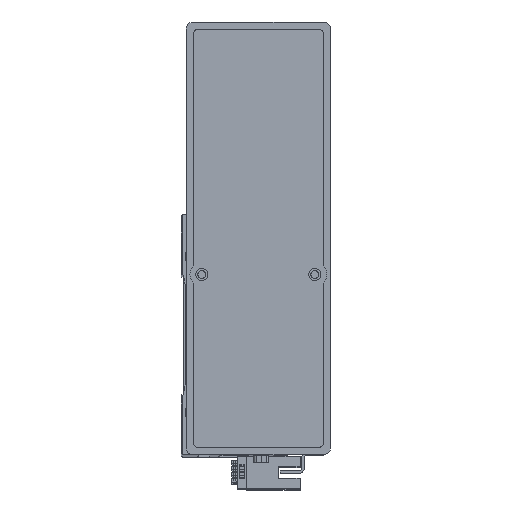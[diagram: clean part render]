
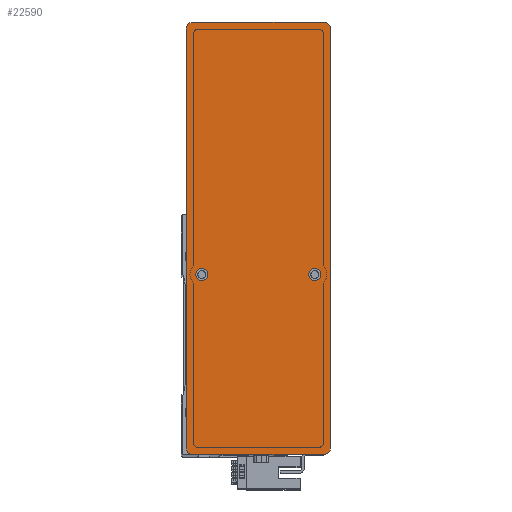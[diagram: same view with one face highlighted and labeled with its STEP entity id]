
A CAD part, top view. The second image highlights one B-rep face of the part: STEP entity #22590.
In plain terms, the highlighted planar face has unit normal (0, 0, 1) as drawn and (0, 0, -1) by its records, which use the part's own axes.
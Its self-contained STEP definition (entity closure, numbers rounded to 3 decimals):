
#37 = CIRCLE ( 'NONE', #8737, 3. ) ;
#402 = CARTESIAN_POINT ( 'NONE',  ( -87., -30., 0. ) ) ;
#432 = VERTEX_POINT ( 'NONE', #40245 ) ;
#1298 = EDGE_CURVE ( 'NONE', #30058, #31738, #4262, .T. ) ;
#1557 = DIRECTION ( 'NONE',  ( -1., 0., 0. ) ) ;
#1824 = CIRCLE ( 'NONE', #4023, 2.5 ) ;
#1884 = VERTEX_POINT ( 'NONE', #22489 ) ;
#1987 = DIRECTION ( 'NONE',  ( 1., 0., 0. ) ) ;
#2189 = AXIS2_PLACEMENT_3D ( 'NONE', #22099, #2416, #25392 ) ;
#2416 = DIRECTION ( 'NONE',  ( 0., 0., -1. ) ) ;
#2606 = ORIENTED_EDGE ( 'NONE', *, *, #12022, .F. ) ;
#2977 = DIRECTION ( 'NONE',  ( -1., 0., 0. ) ) ;
#3457 = LINE ( 'NONE', #28763, #29672 ) ;
#3541 = CARTESIAN_POINT ( 'NONE',  ( -90., 27., 0. ) ) ;
#4023 = AXIS2_PLACEMENT_3D ( 'NONE', #38153, #18522, #41449 ) ;
#4182 = ORIENTED_EDGE ( 'NONE', *, *, #15771, .F. ) ;
#4262 = LINE ( 'NONE', #13171, #11995 ) ;
#5998 = ORIENTED_EDGE ( 'NONE', *, *, #13066, .F. ) ;
#6090 = AXIS2_PLACEMENT_3D ( 'NONE', #32796, #13109, #36113 ) ;
#6472 = ORIENTED_EDGE ( 'NONE', *, *, #7379, .T. ) ;
#7379 = EDGE_CURVE ( 'NONE', #30058, #1884, #22055, .T. ) ;
#7726 = DIRECTION ( 'NONE',  ( 0., 0., -1. ) ) ;
#8032 = ORIENTED_EDGE ( 'NONE', *, *, #39918, .F. ) ;
#8286 = LINE ( 'NONE', #25946, #17021 ) ;
#8737 = AXIS2_PLACEMENT_3D ( 'NONE', #38275, #18655, #41590 ) ;
#9058 = CARTESIAN_POINT ( 'NONE',  ( 0., 0., 0. ) ) ;
#9167 = ORIENTED_EDGE ( 'NONE', *, *, #39330, .F. ) ;
#9526 = CARTESIAN_POINT ( 'NONE',  ( 90., -27., 0. ) ) ;
#9609 = AXIS2_PLACEMENT_3D ( 'NONE', #9058, #38766, #19155 ) ;
#9916 = AXIS2_PLACEMENT_3D ( 'NONE', #36007, #16304, #39253 ) ;
#10735 = FACE_BOUND ( 'NONE', #42079, .T. ) ;
#10820 = EDGE_CURVE ( 'NONE', #29496, #20477, #37, .T. ) ;
#10893 = ORIENTED_EDGE ( 'NONE', *, *, #37177, .T. ) ;
#11126 = CIRCLE ( 'NONE', #9916, 2.5 ) ;
#11151 = CARTESIAN_POINT ( 'NONE',  ( -87., 30., 0. ) ) ;
#11995 = VECTOR ( 'NONE', #36164, 1000. ) ;
#12000 = AXIS2_PLACEMENT_3D ( 'NONE', #27411, #7726, #30696 ) ;
#12022 = EDGE_CURVE ( 'NONE', #17429, #13244, #20907, .T. ) ;
#13066 = EDGE_CURVE ( 'NONE', #21175, #16048, #11126, .T. ) ;
#13109 = DIRECTION ( 'NONE',  ( 0., 0., -1. ) ) ;
#13171 = CARTESIAN_POINT ( 'NONE',  ( 90., -30., 0. ) ) ;
#13244 = VERTEX_POINT ( 'NONE', #40129 ) ;
#15771 = EDGE_CURVE ( 'NONE', #16048, #21175, #26205, .T. ) ;
#16048 = VERTEX_POINT ( 'NONE', #42005 ) ;
#16304 = DIRECTION ( 'NONE',  ( 0., 0., -1. ) ) ;
#16362 = EDGE_LOOP ( 'NONE', ( #19964, #2606 ) ) ;
#17021 = VECTOR ( 'NONE', #2977, 1000. ) ;
#17429 = VERTEX_POINT ( 'NONE', #38962 ) ;
#18303 = EDGE_CURVE ( 'NONE', #432, #31738, #28196, .T. ) ;
#18522 = DIRECTION ( 'NONE',  ( 0., 0., -1. ) ) ;
#18655 = DIRECTION ( 'NONE',  ( 0., 0., -1. ) ) ;
#19155 = DIRECTION ( 'NONE',  ( 1., 0., 0. ) ) ;
#19471 = FACE_OUTER_BOUND ( 'NONE', #27246, .T. ) ;
#19964 = ORIENTED_EDGE ( 'NONE', *, *, #27163, .F. ) ;
#20477 = VERTEX_POINT ( 'NONE', #11151 ) ;
#20907 = CIRCLE ( 'NONE', #2189, 2.5 ) ;
#21175 = VERTEX_POINT ( 'NONE', #35065 ) ;
#21227 = DIRECTION ( 'NONE',  ( 0., 0., -1. ) ) ;
#21490 = EDGE_CURVE ( 'NONE', #432, #20477, #8286, .T. ) ;
#21669 = DIRECTION ( 'NONE',  ( 0., 0., -1. ) ) ;
#22055 = CIRCLE ( 'NONE', #6090, 3. ) ;
#22099 = CARTESIAN_POINT ( 'NONE',  ( -15., -23.5, 0. ) ) ;
#22437 = AXIS2_PLACEMENT_3D ( 'NONE', #40889, #21227, #1557 ) ;
#22489 = CARTESIAN_POINT ( 'NONE',  ( 87., -30., 0. ) ) ;
#22590 = ADVANCED_FACE ( 'NONE', ( #10735, #28188, #19471 ), #32184, .F. ) ;
#22748 = ORIENTED_EDGE ( 'NONE', *, *, #10820, .T. ) ;
#25180 = CIRCLE ( 'NONE', #12000, 3. ) ;
#25392 = DIRECTION ( 'NONE',  ( -1., 0., 0. ) ) ;
#25946 = CARTESIAN_POINT ( 'NONE',  ( 90., 30., 0. ) ) ;
#26205 = CIRCLE ( 'NONE', #22437, 2.5 ) ;
#26504 = LINE ( 'NONE', #28854, #40415 ) ;
#27163 = EDGE_CURVE ( 'NONE', #13244, #17429, #1824, .T. ) ;
#27246 = EDGE_LOOP ( 'NONE', ( #33984, #6472, #9167, #10893, #8032, #22748, #31712, #27778 ) ) ;
#27411 = CARTESIAN_POINT ( 'NONE',  ( -87., -27., 0. ) ) ;
#27778 = ORIENTED_EDGE ( 'NONE', *, *, #18303, .T. ) ;
#28188 = FACE_BOUND ( 'NONE', #16362, .T. ) ;
#28196 = CIRCLE ( 'NONE', #35855, 3. ) ;
#28622 = DIRECTION ( 'NONE',  ( 1., 0., 0. ) ) ;
#28763 = CARTESIAN_POINT ( 'NONE',  ( 90., -30., 0. ) ) ;
#28854 = CARTESIAN_POINT ( 'NONE',  ( -90., -30., 0. ) ) ;
#29352 = CARTESIAN_POINT ( 'NONE',  ( 90., 27., 0. ) ) ;
#29496 = VERTEX_POINT ( 'NONE', #3541 ) ;
#29672 = VECTOR ( 'NONE', #28622, 1000. ) ;
#30058 = VERTEX_POINT ( 'NONE', #9526 ) ;
#30696 = DIRECTION ( 'NONE',  ( 1., 0., 0. ) ) ;
#31402 = VERTEX_POINT ( 'NONE', #40884 ) ;
#31712 = ORIENTED_EDGE ( 'NONE', *, *, #21490, .F. ) ;
#31738 = VERTEX_POINT ( 'NONE', #29352 ) ;
#32184 = PLANE ( 'NONE',  #9609 ) ;
#32796 = CARTESIAN_POINT ( 'NONE',  ( 87., -27., 0. ) ) ;
#33984 = ORIENTED_EDGE ( 'NONE', *, *, #1298, .F. ) ;
#35065 = CARTESIAN_POINT ( 'NONE',  ( -17.5, 23.5, 0. ) ) ;
#35855 = AXIS2_PLACEMENT_3D ( 'NONE', #41324, #21669, #1987 ) ;
#36007 = CARTESIAN_POINT ( 'NONE',  ( -15., 23.5, 0. ) ) ;
#36113 = DIRECTION ( 'NONE',  ( 1., 0., 0. ) ) ;
#36164 = DIRECTION ( 'NONE',  ( 0., 1., 0. ) ) ;
#37177 = EDGE_CURVE ( 'NONE', #42550, #31402, #25180, .T. ) ;
#38153 = CARTESIAN_POINT ( 'NONE',  ( -15., -23.5, 0. ) ) ;
#38275 = CARTESIAN_POINT ( 'NONE',  ( -87., 27., 0. ) ) ;
#38766 = DIRECTION ( 'NONE',  ( 0., 0., 1. ) ) ;
#38962 = CARTESIAN_POINT ( 'NONE',  ( -12.5, -23.5, 0. ) ) ;
#39253 = DIRECTION ( 'NONE',  ( -1., 0., 0. ) ) ;
#39330 = EDGE_CURVE ( 'NONE', #42550, #1884, #3457, .T. ) ;
#39918 = EDGE_CURVE ( 'NONE', #29496, #31402, #26504, .T. ) ;
#40129 = CARTESIAN_POINT ( 'NONE',  ( -17.5, -23.5, 0. ) ) ;
#40245 = CARTESIAN_POINT ( 'NONE',  ( 87., 30., 0. ) ) ;
#40415 = VECTOR ( 'NONE', #41789, 1000. ) ;
#40884 = CARTESIAN_POINT ( 'NONE',  ( -90., -27., 0. ) ) ;
#40889 = CARTESIAN_POINT ( 'NONE',  ( -15., 23.5, 0. ) ) ;
#41324 = CARTESIAN_POINT ( 'NONE',  ( 87., 27., 0. ) ) ;
#41449 = DIRECTION ( 'NONE',  ( -1., 0., 0. ) ) ;
#41590 = DIRECTION ( 'NONE',  ( 1., 0., 0. ) ) ;
#41789 = DIRECTION ( 'NONE',  ( 0., -1., 0. ) ) ;
#42005 = CARTESIAN_POINT ( 'NONE',  ( -12.5, 23.5, 0. ) ) ;
#42079 = EDGE_LOOP ( 'NONE', ( #5998, #4182 ) ) ;
#42550 = VERTEX_POINT ( 'NONE', #402 ) ;
